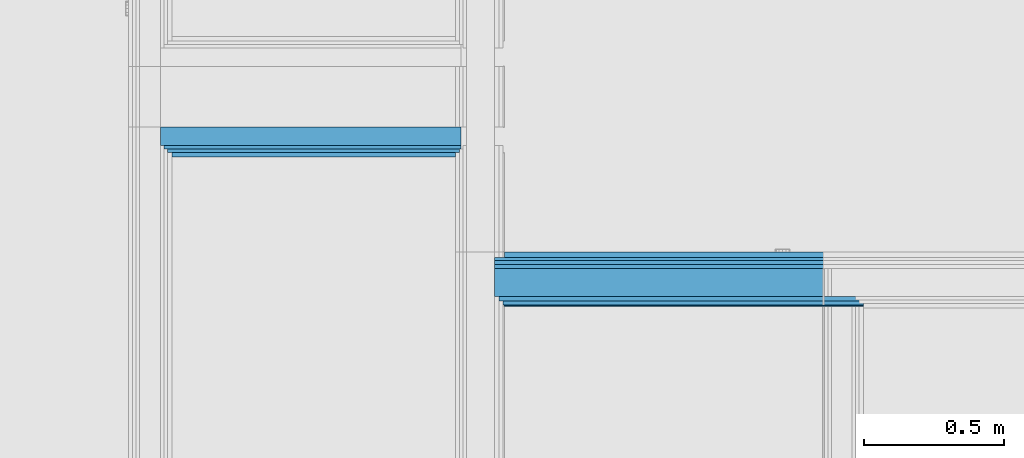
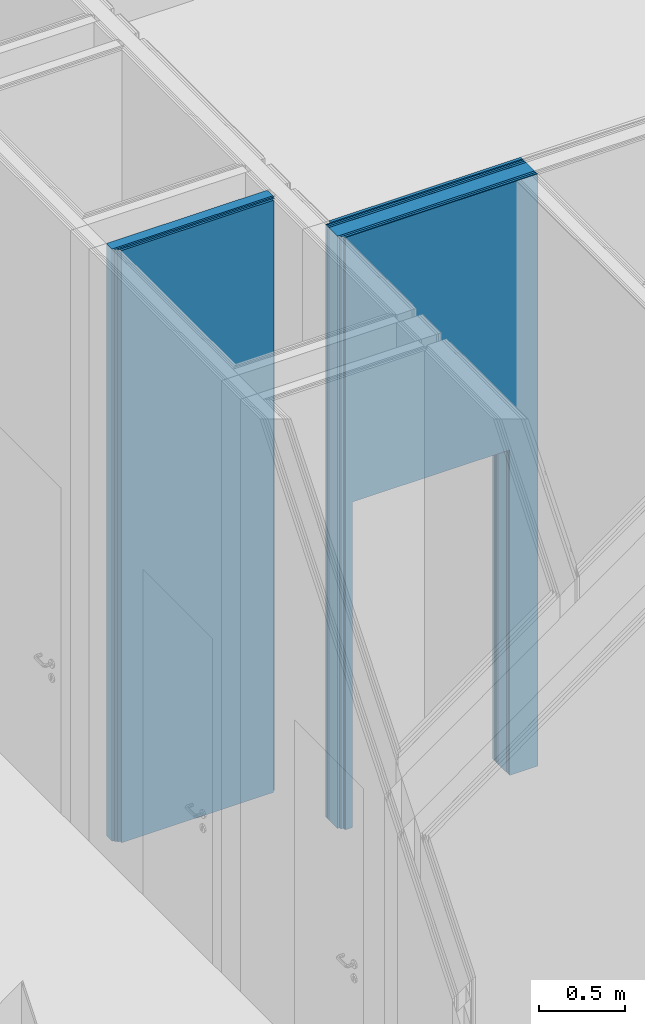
# One storey, part 205 of 260: 12 building element parts, 1 opening, 2 elements without a shape of their own.
"""IFC2X3 building model written with IfcOpenShell, lengths in millimetres."""

from ifc_helpers import new_model, entity, si_unit, converted_unit, derived_unit, money_unit, direction, frame, origin_with_axes, place, context, subcontext, project, spatial, faceted_brep, material, type_object, element, aggregate, save


model = new_model("IFC2X3")

# Units and contexts
model_context = context("Model", 3, precision=0.01, world=origin_with_axes(), true_north=direction((0.0, 1.0)))
body_context = subcontext(model_context, "Body", "Model", "MODEL_VIEW")
ifc_project = project(units=[si_unit("LENGTHUNIT", "METRE", prefix="MILLI"), si_unit("AREAUNIT", "SQUARE_METRE"), si_unit("VOLUMEUNIT", "CUBIC_METRE"), converted_unit("PLANEANGLEUNIT", "DEGREE", entity("IfcPlaneAngleMeasure", 0.0174532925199), si_unit("PLANEANGLEUNIT", "RADIAN"), dimensions=[0, 0, 0, 0, 0, 0, 0]), money_unit("EUR"), converted_unit("TIMEUNIT", "Year", entity("IfcTimeMeasure", 31556926.0), si_unit("TIMEUNIT", "SECOND"), dimensions=[0, 0, 1, 0, 0, 0, 0]), si_unit("MASSUNIT", "GRAM", prefix="KILO"), si_unit("THERMODYNAMICTEMPERATUREUNIT", "DEGREE_CELSIUS"), si_unit("LUMINOUSINTENSITYUNIT", "LUMEN"), si_unit("ENERGYUNIT", "JOULE", prefix="MEGA"), derived_unit("THERMALCONDUCTANCEUNIT", [(si_unit("POWERUNIT", "WATT"), 1), (si_unit("LENGTHUNIT", "METRE"), -1), (si_unit("THERMODYNAMICTEMPERATUREUNIT", "KELVIN"), -1)]), derived_unit("SPECIFICHEATCAPACITYUNIT", [(si_unit("ENERGYUNIT", "JOULE"), 1), (si_unit("MASSUNIT", "GRAM", prefix="KILO"), -1), (si_unit("THERMODYNAMICTEMPERATUREUNIT", "KELVIN"), -1)]), derived_unit("MASSDENSITYUNIT", [(si_unit("MASSUNIT", "GRAM", prefix="KILO"), 1), (si_unit("VOLUMEUNIT", "CUBIC_METRE"), -1)])], contexts=[model_context])

# Site, building, storey
site_placement = place(None, origin_with_axes())
site = spatial("IfcSite", under=ifc_project, at=site_placement, Name="Kolde pst 67a", CompositionType="ELEMENT")
building_placement = place(site_placement, origin_with_axes())
building = spatial("IfcBuilding", under=site, at=building_placement, Name="Riigigümnaasium", CompositionType="ELEMENT")
storey_placement = place(building_placement, origin_with_axes())
storey = spatial("IfcBuildingStorey", under=building, at=storey_placement, Name="1. korrus", CompositionType="ELEMENT", Elevation=0.0)

# Wall, building element parts
wall_type_1 = type_object("IfcWallType", Name="SS-MK-66/3_šahti sein+plaat 106", PredefinedType="NOTDEFINED")
wall_1_placement = place(storey_placement, frame((67450.8832093, 16670.0776306, 0.0), z_axis=(0.0, 0.0, 1.0), x_axis=(-1.0, -7.27337343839e-07, 0.0)))
wall_1 = element("IfcWall", 1, at=wall_1_placement, inside=storey, type_object=wall_type_1, Name="Varisein")
ifc_material_1 = material(Name="_VIIMISTLUSKIHT - viimistlus vastavalt SA osale")
building_element_part_1_placement = place(wall_1_placement, origin_with_axes())
building_element_part_1 = element("IfcBuildingElementPart", 2, at=building_element_part_1_placement, material=ifc_material_1, Name="_VIIMISTLUSKIHT - viimistlus vastavalt SA osale", context=body_context, shape_type="Brep", body=[
    faceted_brep([(1034.99566293, -15.0, 4185.0), (19.9997972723, -15.0, 4185.0), (19.9997972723, -15.0, 0.0), (1034.99566293, -15.0, 0.0), (19.9998171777, 0.0, 4185.0), (1034.99567384, 0.0, 4185.0), (19.9998171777, 0.0, 0.0), (1034.99567384, 0.0, 0.0)], [[[0, 1, 2, 3]], [[4, 1, 0, 5]], [[1, 4, 6, 2]], [[3, 2, 6, 7]], [[5, 0, 3, 7]], [[4, 5, 7, 6]]]),
])
ifc_material_2 = material(Name="_PLAATMATERJAL - kipsplaat veekindel")
building_element_part_2_placement = place(wall_1_placement, origin_with_axes())
building_element_part_2 = element("IfcBuildingElementPart", 3, at=building_element_part_2_placement, material=ifc_material_2, Name="_PLAATMATERJAL - kipsplaat veekindel", context=body_context, shape_type="Brep", body=[
    faceted_brep([(1049.99565384, -27.5, 4185.0), (4.9997806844, -27.5, 4185.0), (4.9997806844, -27.5, 0.0), (1049.99565384, -27.5, 0.0), (4.99979727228, -15.0, 4185.0), (1049.99566293, -15.0, 4185.0), (4.99979727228, -15.0, 0.0), (1049.99566293, -15.0, 0.0)], [[[0, 1, 2, 3]], [[4, 1, 0, 5]], [[1, 4, 6, 2]], [[3, 2, 6, 7]], [[5, 0, 3, 7]], [[4, 5, 7, 6]]]),
])
building_element_part_3_placement = place(wall_1_placement, origin_with_axes())
building_element_part_3 = element("IfcBuildingElementPart", 4, at=building_element_part_3_placement, material=ifc_material_2, Name="_PLAATMATERJAL - kipsplaat veekindel", context=body_context, shape_type="Brep", body=[
    faceted_brep([(1062.49564475, -40.0, 4185.0), (0.0, -40.0, 4185.0), (0.0, -40.0, 0.0), (1062.49564475, -40.0, 0.0), (0.0, -27.5, 4185.0), (1062.49565384, -27.5, 4185.0), (0.0, -27.5, 0.0), (1062.49565384, -27.5, 0.0)], [[[0, 1, 2, 3]], [[4, 1, 0, 5]], [[1, 4, 6, 2]], [[7, 3, 2, 6]], [[5, 0, 3, 7]], [[4, 5, 7, 6]]]),
])
ifc_material_3 = material(Name="_KARKASS - metallkarkass CW 75/50, mineraalvill karkassi vahel")
building_element_part_4_placement = place(wall_1_placement, origin_with_axes())
building_element_part_4 = element("IfcBuildingElementPart", 5, at=building_element_part_4_placement, material=ifc_material_3, Name="_KARKASS - metallkarkass CW 75/50, mineraalvill karkassi vahel", context=body_context, shape_type="Brep", body=[
    faceted_brep([(1074.99559675, -106.0, 4185.0), (0.0, -106.0, 4185.0), (0.0, -106.0, 0.0), (1074.99559675, -106.0, 0.0), (0.0, -40.0, 4185.0), (1074.99564475, -40.0, 4185.0), (0.0, -40.0, 0.0), (1074.99564475, -40.0, 0.0)], [[[0, 1, 2, 3]], [[4, 1, 0, 5]], [[1, 4, 6, 2]], [[7, 3, 2, 6]], [[5, 0, 3, 7]], [[4, 5, 7, 6]]]),
])
aggregate(wall_1, [building_element_part_1, building_element_part_2, building_element_part_3, building_element_part_4])

# Wall, opening, building element parts
wall_type_2 = type_object("IfcWallType", Name="SS-PK-10/3_vill100+dold+värv 195", PredefinedType="NOTDEFINED")
wall_2_placement = place(storey_placement, frame((68889.9994775, 16135.0100827, 0.0), z_axis=(0.0, 0.0, 1.0), x_axis=(-1.0, 7.18879931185e-07, 0.0)))
wall_2 = element("IfcWall", 6, at=wall_2_placement, inside=storey, type_object=wall_type_2, Name="Sisesein")
opening_placement = place(wall_2_placement, frame((714.11773887, 0.0, 0.0), z_axis=(0.0, 0.0, 1.0), x_axis=(1.0, 0.0, 0.0)))
element("IfcOpeningElement", 7, at=opening_placement, cuts=wall_2, Name="Siseuks", context=body_context, shape_type="Brep", body=[
    faceted_brep([(524.999941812, -390.0, 2300.0), (524.999941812, -390.0, 0.0), (524.999941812, 195.0, 0.0), (524.999941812, 195.0, 2300.0), (-524.999941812, -390.0, 2300.0), (-524.999941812, -390.0, 0.0), (-524.999941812, 195.0, 0.0), (-524.999941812, 195.0, 2300.0)], [[[0, 1, 2, 3]], [[0, 4, 5, 1]], [[1, 5, 6, 2]], [[3, 2, 6, 7]], [[4, 0, 3, 7]], [[5, 4, 7, 6]]]),
])
building_element_part_5_placement = place(wall_2_placement, origin_with_axes())
building_element_part_5 = element("IfcBuildingElementPart", 8, at=building_element_part_5_placement, material=ifc_material_1, Name="_VIIMISTLUSKIHT - viimistlus vastavalt SA osale", context=body_context, shape_type="Brep", body=[
    faceted_brep([(1239.11768068, -5.0, 2300.0), (1239.11768068, -5.0, 0.0), (1284.11649802, -5.0, 0.0), (1284.11649802, -5.0, 4185.0), (0.0, -5.0, 4185.0), (0.0, -5.0, 0.0), (189.117797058, -5.0, 0.0), (189.117797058, -5.0, 2300.0), (1239.11768068, 0.0, 2300.0), (1239.11768068, 0.0, 0.0), (1284.11649982, 0.0, 0.0), (1284.11649982, 0.0, 4185.0), (0.0, 0.0, 4185.0), (0.0, 0.0, 0.0), (189.117797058, 0.0, 0.0), (189.117797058, 0.0, 2300.0)], [[[0, 1, 2, 3, 4, 5, 6, 7]], [[1, 0, 8, 9]], [[1, 9, 10, 2]], [[3, 2, 10, 11]], [[4, 3, 11, 12]], [[12, 13, 5, 4]], [[14, 6, 5, 13]], [[7, 6, 14, 15]], [[0, 7, 15, 8]], [[15, 14, 13, 12, 11, 10, 9, 8]]]),
])
ifc_material_4 = material(Name="_PLAATMATERJAL - tuletõkkekipsplaat, Knauf Red GKF või samaväärne")
building_element_part_6_placement = place(wall_2_placement, origin_with_axes())
building_element_part_6 = element("IfcBuildingElementPart", 9, at=building_element_part_6_placement, material=ifc_material_4, Name="_PLAATMATERJAL - tuletõkkekipsplaat, Knauf Red GKF või samaväärne", context=body_context, shape_type="Brep", body=[
    faceted_brep([(1239.11768068, -20.0, 2300.0), (1239.11768068, -20.0, 0.0), (1289.11649262, -20.0, 0.0), (1289.11649262, -20.0, 4185.0), (0.0, -20.0, 4185.0), (0.0, -20.0, 0.0), (189.117797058, -20.0, 0.0), (189.117797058, -20.0, 2300.0), (1239.11768068, -5.0, 2300.0), (1239.11768068, -5.0, 0.0), (1289.11649802, -5.0, 0.0), (1289.11649802, -5.0, 4185.0), (0.0, -5.0, 4185.0), (0.0, -5.0, 0.0), (189.117797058, -5.0, 0.0), (189.117797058, -5.0, 2300.0)], [[[0, 1, 2, 3, 4, 5, 6, 7]], [[1, 0, 8, 9]], [[1, 9, 10, 2]], [[3, 2, 10, 11]], [[4, 3, 11, 12]], [[12, 13, 5, 4]], [[14, 6, 5, 13]], [[7, 6, 14, 15]], [[0, 7, 15, 8]], [[15, 14, 13, 12, 11, 10, 9, 8]]]),
])
ifc_material_5 = material(Name="_PLAATMATERJAL - OSB3 plaat")
building_element_part_7_placement = place(wall_2_placement, origin_with_axes())
building_element_part_7 = element("IfcBuildingElementPart", 10, at=building_element_part_7_placement, material=ifc_material_5, Name="_PLAATMATERJAL - OSB3 plaat", context=body_context, shape_type="Brep", body=[
    faceted_brep([(1239.11768068, -35.0, 2300.0), (1239.11768068, -35.0, 0.0), (1304.11648722, -35.0, 0.0), (1304.11648722, -35.0, 4185.0), (0.0, -35.0, 4185.0), (0.0, -35.0, 0.0), (189.117797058, -35.0, 0.0), (189.117797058, -35.0, 2300.0), (1239.11768068, -20.0, 2300.0), (1239.11768068, -20.0, 0.0), (1304.11649262, -20.0, 0.0), (1304.11649262, -20.0, 4185.0), (0.0, -20.0, 4185.0), (0.0, -20.0, 0.0), (189.117797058, -20.0, 0.0), (189.117797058, -20.0, 2300.0)], [[[0, 1, 2, 3, 4, 5, 6, 7]], [[1, 0, 8, 9]], [[1, 9, 10, 2]], [[3, 2, 10, 11]], [[4, 3, 11, 12]], [[12, 13, 5, 4]], [[14, 6, 5, 13]], [[7, 6, 14, 15]], [[0, 7, 15, 8]], [[15, 14, 13, 12, 11, 10, 9, 8]]]),
])
ifc_material_6 = material(Name="_KARKASS - puitpruss 100x50mm vertikaalne, samm 600mm, vahel mineraalvill, helineeldetegur αw = 1.0, ISOVER ACOUSTIC 100mm või samaväärne")
building_element_part_8_placement = place(wall_2_placement, origin_with_axes())
building_element_part_8 = element("IfcBuildingElementPart", 11, at=building_element_part_8_placement, material=ifc_material_6, Name="_KARKASS - puitpruss 100x50mm vertikaalne, samm 600mm, vahel mineraalvill, helineeldetegur αw = 1.0, ISOVER ACOUSTIC 100mm või samaväärne", context=body_context, shape_type="Brep", body=[
    faceted_brep([(1239.11768068, -135.0, 2300.0), (1239.11768068, -135.0, 0.0), (1319.11645121, -135.0, 0.0), (1319.11645121, -135.0, 4185.0), (0.0, -135.0, 4185.0), (0.0, -135.0, 0.0), (189.117797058, -135.0, 0.0), (189.117797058, -135.0, 2300.0), (1239.11768068, -35.0, 2300.0), (1239.11768068, -35.0, 0.0), (1319.11648722, -35.0, 0.0), (1319.11648722, -35.0, 4185.0), (0.0, -35.0, 4185.0), (0.0, -35.0, 0.0), (189.117797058, -35.0, 0.0), (189.117797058, -35.0, 2300.0)], [[[0, 1, 2, 3, 4, 5, 6, 7]], [[1, 0, 8, 9]], [[1, 9, 10, 2]], [[3, 2, 10, 11]], [[4, 3, 11, 12]], [[12, 13, 5, 4]], [[14, 6, 5, 13]], [[7, 6, 14, 15]], [[0, 7, 15, 8]], [[15, 14, 13, 12, 11, 10, 9, 8]]]),
])
building_element_part_9_placement = place(wall_2_placement, origin_with_axes())
building_element_part_9 = element("IfcBuildingElementPart", 12, at=building_element_part_9_placement, material=ifc_material_5, Name="_PLAATMATERJAL - OSB3 plaat", context=body_context, shape_type="Brep", body=[
    faceted_brep([(1239.11768068, -150.0, 2300.0), (1239.11768068, -150.0, 0.0), (1319.11644581, -150.0, 0.0), (1319.11644581, -150.0, 4185.0), (0.0, -150.0, 4185.0), (0.0, -150.0, 0.0), (189.117797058, -150.0, 0.0), (189.117797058, -150.0, 2300.0), (1239.11768068, -135.0, 2300.0), (1239.11768068, -135.0, 0.0), (1319.11645121, -135.0, 0.0), (1319.11645121, -135.0, 4185.0), (0.0, -135.0, 4185.0), (0.0, -135.0, 0.0), (189.117797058, -135.0, 0.0), (189.117797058, -135.0, 2300.0)], [[[0, 1, 2, 3, 4, 5, 6, 7]], [[1, 0, 8, 9]], [[1, 9, 10, 2]], [[3, 2, 10, 11]], [[4, 3, 11, 12]], [[12, 13, 5, 4]], [[14, 6, 5, 13]], [[7, 6, 14, 15]], [[0, 7, 15, 8]], [[15, 14, 13, 12, 11, 10, 9, 8]]]),
])
building_element_part_10_placement = place(wall_2_placement, origin_with_axes())
building_element_part_10 = element("IfcBuildingElementPart", 13, at=building_element_part_10_placement, material=ifc_material_4, Name="_PLAATMATERJAL - tuletõkkekipsplaat, Knauf Red GKF või samaväärne", context=body_context, shape_type="Brep", body=[
    faceted_brep([(1239.11768068, -165.0, 2300.0), (1239.11768068, -165.0, 0.0), (1319.11644041, -165.0, 0.0), (1319.11644041, -165.0, 4185.0), (0.0, -165.0, 4185.0), (0.0, -165.0, 0.0), (189.117797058, -165.0, 0.0), (189.117797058, -165.0, 2300.0), (1239.11768068, -150.0, 2300.0), (1239.11768068, -150.0, 0.0), (1319.11644581, -150.0, 0.0), (1319.11644581, -150.0, 4185.0), (0.0, -150.0, 4185.0), (0.0, -150.0, 0.0), (189.117797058, -150.0, 0.0), (189.117797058, -150.0, 2300.0)], [[[0, 1, 2, 3, 4, 5, 6, 7]], [[1, 0, 8, 9]], [[1, 9, 10, 2]], [[3, 2, 10, 11]], [[4, 3, 11, 12]], [[12, 13, 5, 4]], [[14, 6, 5, 13]], [[7, 6, 14, 15]], [[0, 7, 15, 8]], [[15, 14, 13, 12, 11, 10, 9, 8]]]),
])
ifc_material_7 = material(Name="_KARKASS - eriprofiilkinnitus vastavalt sisemisele plaatviimistlusele")
building_element_part_11_placement = place(wall_2_placement, origin_with_axes())
building_element_part_11 = element("IfcBuildingElementPart", 14, at=building_element_part_11_placement, material=ifc_material_7, Name="_KARKASS - eriprofiilkinnitus vastavalt sisemisele plaatviimistlusele", context=body_context, shape_type="Brep", body=[
    faceted_brep([(1239.11768068, -175.0, 2300.0), (1239.11768068, -175.0, 0.0), (1319.11643681, -175.0, 0.0), (1319.11643681, -175.0, 4185.0), (0.0, -175.0, 4185.0), (0.0, -175.0, 0.0), (189.117797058, -175.0, 0.0), (189.117797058, -175.0, 2300.0), (1239.11768068, -165.0, 2300.0), (1239.11768068, -165.0, 0.0), (1319.11644041, -165.0, 0.0), (1319.11644041, -165.0, 4185.0), (0.0, -165.0, 4185.0), (0.0, -165.0, 0.0), (189.117797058, -165.0, 0.0), (189.117797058, -165.0, 2300.0)], [[[0, 1, 2, 3, 4, 5, 6, 7]], [[1, 0, 8, 9]], [[1, 9, 10, 2]], [[3, 2, 10, 11]], [[4, 3, 11, 12]], [[12, 13, 5, 4]], [[14, 6, 5, 13]], [[7, 6, 14, 15]], [[0, 7, 15, 8]], [[15, 14, 13, 12, 11, 10, 9, 8]]]),
])
building_element_part_12_placement = place(wall_2_placement, origin_with_axes())
building_element_part_12 = element("IfcBuildingElementPart", 15, at=building_element_part_12_placement, material=ifc_material_1, Name="_VIIMISTLUSKIHT - viimistlus vastavalt SA osale", context=body_context, shape_type="Brep", body=[
    faceted_brep([(1239.11768068, -195.0, 2300.0), (1239.11768068, -195.0, 0.0), (1284.11642961, -195.0, 0.0), (1284.11642961, -195.0, 4185.0), (0.0, -195.0, 4185.0), (0.0, -195.0, 0.0), (189.117797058, -195.0, 0.0), (189.117797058, -195.0, 2300.0), (1239.11768068, -175.0, 2300.0), (1239.11768068, -175.0, 0.0), (1284.11643681, -175.0, 0.0), (1284.11643681, -175.0, 4185.0), (0.0, -175.0, 4185.0), (0.0, -175.0, 0.0), (189.117797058, -175.0, 0.0), (189.117797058, -175.0, 2300.0)], [[[0, 1, 2, 3, 4, 5, 6, 7]], [[1, 0, 8, 9]], [[1, 9, 10, 2]], [[3, 2, 10, 11]], [[4, 3, 11, 12]], [[12, 13, 5, 4]], [[14, 6, 5, 13]], [[7, 6, 14, 15]], [[0, 7, 15, 8]], [[15, 14, 13, 12, 11, 10, 9, 8]]]),
])
aggregate(wall_2, [building_element_part_5, building_element_part_6, building_element_part_7, building_element_part_8, building_element_part_9, building_element_part_10, building_element_part_11, building_element_part_12])

save(model, "model.ifc")
